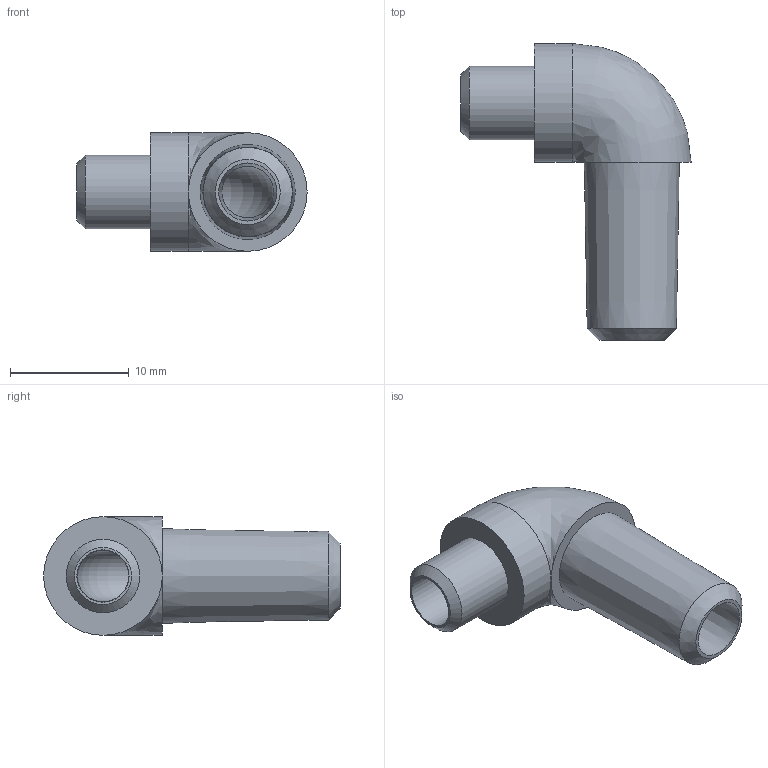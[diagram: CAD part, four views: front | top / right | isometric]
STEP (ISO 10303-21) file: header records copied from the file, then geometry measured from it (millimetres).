
FILE_DESCRIPTION(/* description */ (''),/* implementation_level */ '2;1');
FILE_NAME(/* name */ 'Pipe connector.step',/* time_stamp */ '2025-11-18T10:53:30+01:00',/* author */ (''),/* organization */ (''),/* preprocessor_version */ 'ST-DEVELOPER v20.1',/* originating_system */ 'Autodesk Translation Framework v14.21.0.0',/* authorisation */ '');
FILE_SCHEMA (('AUTOMOTIVE_DESIGN { 1 0 10303 214 3 1 1 }'));
Length unit declared in the file: millimetre
Products named in the file (1): waz
Bounding box: 19.4 x 25 x 10 mm (x, y, z)
Volume: 1256.2 mm3; surface area: 1382.9 mm2
Topology: 1 solids, 1 shells, 15 faces, 26 edges, 14 vertices
Faces by surface type: plane 5, cone 4, cylinder 4, torus 1, bspline 1
Full cylindrical faces by diameter (mm): 4.372 x1, 4.4 x1, 6.2 x1, 10 x1
Entity records: 405 total; most frequent: CARTESIAN_POINT 80, DIRECTION 70, ORIENTED_EDGE 48, AXIS2_PLACEMENT_3D 31, EDGE_CURVE 24, EDGE_LOOP 20, CIRCLE 16, FACE_OUTER_BOUND 15
